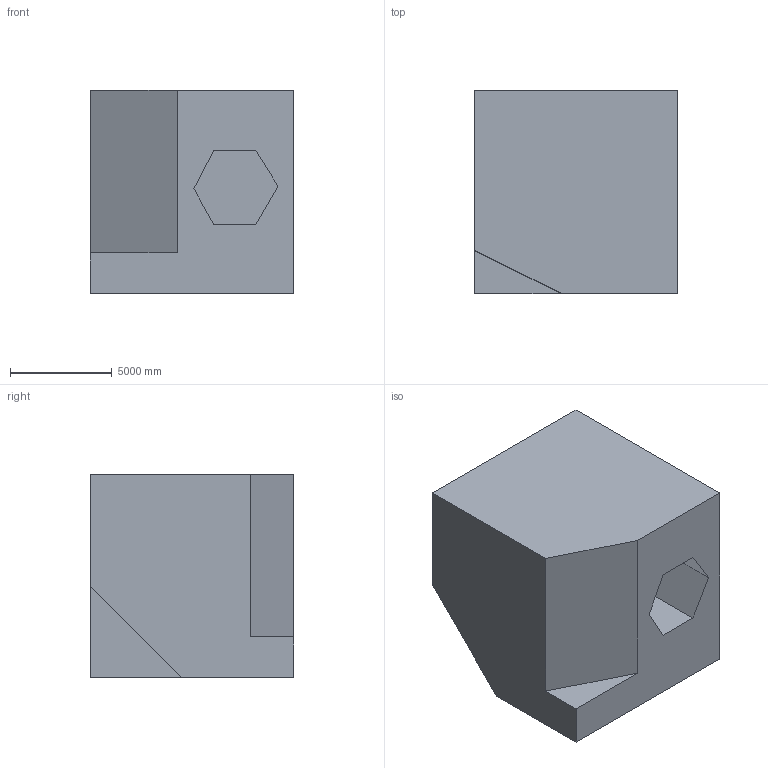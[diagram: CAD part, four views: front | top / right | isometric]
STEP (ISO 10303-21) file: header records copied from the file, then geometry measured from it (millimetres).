
FILE_DESCRIPTION (( 'STEP AP203' ), '1' );
FILE_NAME ('211.STEP', '2022-07-28T13:55:05', ( 'user' ), ( '' ), 'SwSTEP 2.0', 'SolidWorks 2021', '' );
FILE_SCHEMA (( 'CONFIG_CONTROL_DESIGN' ));
Length unit declared in the file: centimetre
Products named in the file (1): 211
Bounding box: 10000 x 10000 x 10000 mm (x, y, z)
Volume: 885755414565.3 mm3; surface area: 626423867.7 mm2
Topology: 1 solids, 1 shells, 17 faces, 42 edges, 28 vertices
Faces by surface type: plane 17
Entity records: 573 total; most frequent: CARTESIAN_POINT 88, ORIENTED_EDGE 84, DIRECTION 78, VECTOR 42, EDGE_CURVE 42, LINE 42, VERTEX_POINT 28, AXIS2_PLACEMENT_3D 18
